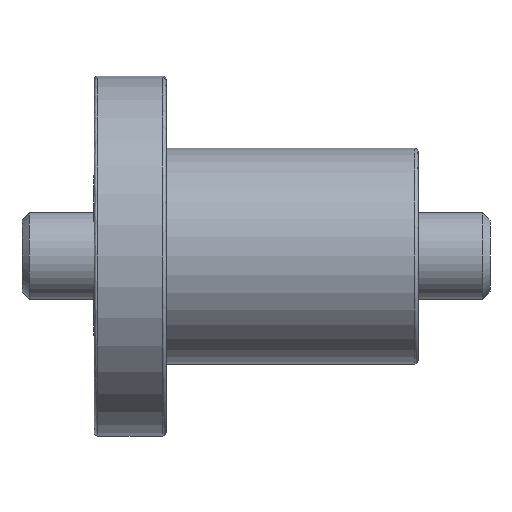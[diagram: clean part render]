
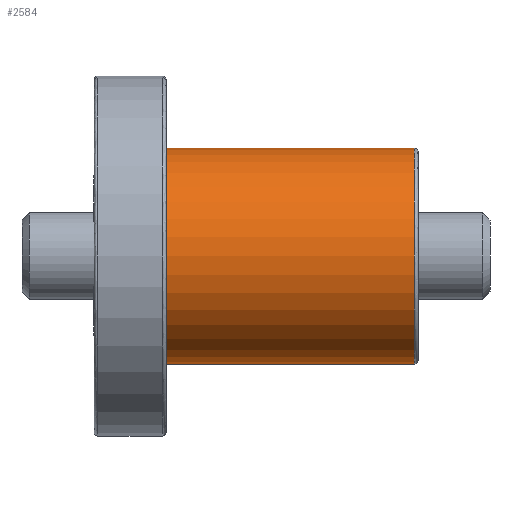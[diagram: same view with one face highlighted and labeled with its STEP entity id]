
A CAD part, front view. The second image highlights one B-rep face of the part: STEP entity #2584.
In plain terms, the highlighted cylindrical face has radius 15 mm (diameter 30 mm), a partial arc.
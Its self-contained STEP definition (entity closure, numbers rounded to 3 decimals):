
#23 = DIRECTION ( 'NONE',  ( 0., 0., 1. ) ) ;
#163 = DIRECTION ( 'NONE',  ( -1., 0., 0. ) ) ;
#550 = CARTESIAN_POINT ( 'NONE',  ( 45., 0., -15. ) ) ;
#714 = CIRCLE ( 'NONE', #6430, 15. ) ;
#777 = DIRECTION ( 'NONE',  ( 0., 0., 1. ) ) ;
#875 = DIRECTION ( 'NONE',  ( -1., 0., 0. ) ) ;
#1050 = LINE ( 'NONE', #1860, #2739 ) ;
#1067 = EDGE_CURVE ( 'NONE', #6756, #1488, #714, .T. ) ;
#1256 = LINE ( 'NONE', #550, #1874 ) ;
#1488 = VERTEX_POINT ( 'NONE', #5625 ) ;
#1815 = DIRECTION ( 'NONE',  ( 0., 0., 1. ) ) ;
#1836 = CARTESIAN_POINT ( 'NONE',  ( 10., 0., 15. ) ) ;
#1860 = CARTESIAN_POINT ( 'NONE',  ( 45., 0., 15. ) ) ;
#1874 = VECTOR ( 'NONE', #4534, 1000. ) ;
#2236 = FACE_OUTER_BOUND ( 'NONE', #4044, .T. ) ;
#2584 = ADVANCED_FACE ( 'NONE', ( #2236 ), #2779, .T. ) ;
#2739 = VECTOR ( 'NONE', #163, 1000. ) ;
#2779 = CYLINDRICAL_SURFACE ( 'NONE', #4352, 15. ) ;
#2791 = VERTEX_POINT ( 'NONE', #7447 ) ;
#3318 = ORIENTED_EDGE ( 'NONE', *, *, #4259, .F. ) ;
#3474 = DIRECTION ( 'NONE',  ( 1., 0., 0. ) ) ;
#3489 = ORIENTED_EDGE ( 'NONE', *, *, #1067, .T. ) ;
#3502 = CARTESIAN_POINT ( 'NONE',  ( 10., 0., 0. ) ) ;
#3766 = EDGE_CURVE ( 'NONE', #5827, #2791, #4119, .T. ) ;
#4044 = EDGE_LOOP ( 'NONE', ( #3318, #3489, #5679, #7176 ) ) ;
#4119 = CIRCLE ( 'NONE', #5719, 15. ) ;
#4259 = EDGE_CURVE ( 'NONE', #6756, #2791, #1256, .T. ) ;
#4352 = AXIS2_PLACEMENT_3D ( 'NONE', #5933, #875, #777 ) ;
#4534 = DIRECTION ( 'NONE',  ( -1., 0., 0. ) ) ;
#5625 = CARTESIAN_POINT ( 'NONE',  ( 44.5, 0., 15. ) ) ;
#5679 = ORIENTED_EDGE ( 'NONE', *, *, #5870, .T. ) ;
#5719 = AXIS2_PLACEMENT_3D ( 'NONE', #3502, #3474, #1815 ) ;
#5807 = DIRECTION ( 'NONE',  ( -1., 0., 0. ) ) ;
#5827 = VERTEX_POINT ( 'NONE', #1836 ) ;
#5850 = CARTESIAN_POINT ( 'NONE',  ( 44.5, 0., -15. ) ) ;
#5870 = EDGE_CURVE ( 'NONE', #1488, #5827, #1050, .T. ) ;
#5933 = CARTESIAN_POINT ( 'NONE',  ( 45., 0., 0. ) ) ;
#6386 = CARTESIAN_POINT ( 'NONE',  ( 44.5, 0., 0. ) ) ;
#6430 = AXIS2_PLACEMENT_3D ( 'NONE', #6386, #5807, #23 ) ;
#6756 = VERTEX_POINT ( 'NONE', #5850 ) ;
#7176 = ORIENTED_EDGE ( 'NONE', *, *, #3766, .T. ) ;
#7447 = CARTESIAN_POINT ( 'NONE',  ( 10., 0., -15. ) ) ;
